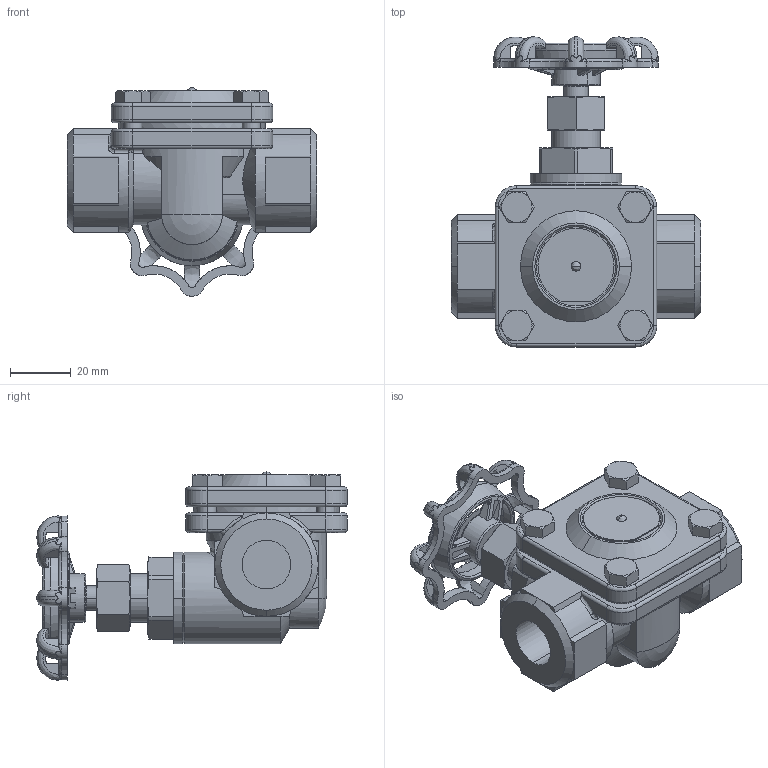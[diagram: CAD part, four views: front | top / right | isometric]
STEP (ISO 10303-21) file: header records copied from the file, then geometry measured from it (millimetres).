
FILE_DESCRIPTION( (''), '2;1');
FILE_NAME ('PC1276.14844.TS-5BP 20A_4084.stp','2025-09-19T09:33:30',(''),(''),'spGate 20.6.3 (****-****-****-****)','','');
FILE_SCHEMA (('AUTOMOTIVE_DESIGN'));
Length unit declared in the file: millimetre
Bounding box: 82 x 101.9 x 68.5 mm (x, y, z)
Volume: 133493.1 mm3; surface area: 33981.3 mm2
Topology: 1 solids, 1 shells, 671 faces, 1795 edges, 1105 vertices
Faces by surface type: bspline 287, plane 217, cylinder 166, sphere 1
Entity records: 42235 total; most frequent: CARTESIAN_POINT 14035, ORIENTED_EDGE 3540, DIRECTION 2505, COLOUR_RGB 2442, PRESENTATION_STYLE_ASSIGNMENT 2442, STYLED_ITEM 2442, EDGE_CURVE 1770, DRAUGHTING_PRE_DEFINED_CURVE_FONT 1770
